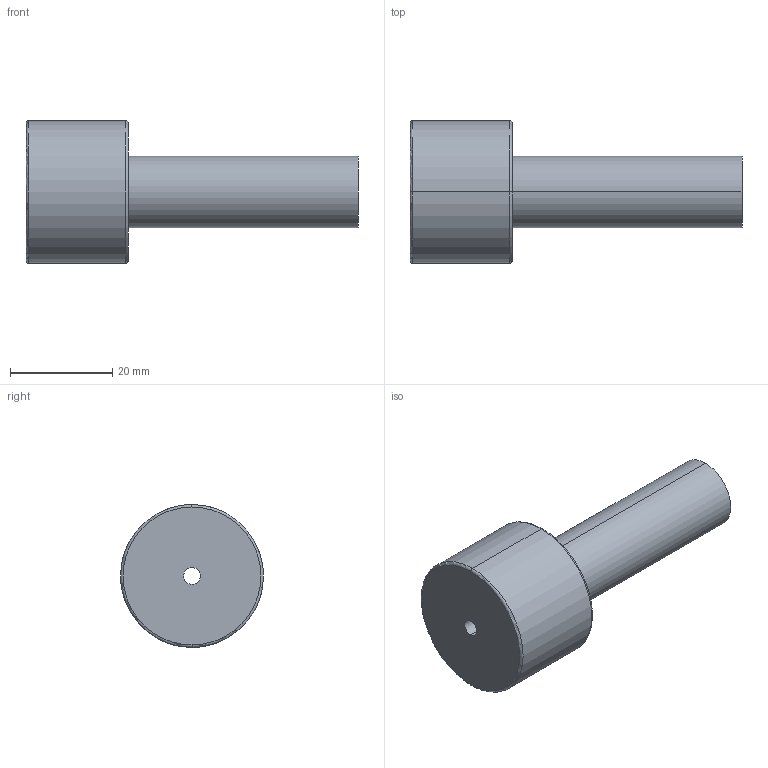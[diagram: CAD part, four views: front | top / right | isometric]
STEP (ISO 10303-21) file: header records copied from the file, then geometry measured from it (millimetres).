
FILE_DESCRIPTION(('CATIA V5 STEP Exchange'),'2;1');
FILE_NAME('C:\Users\Utente\Desktop\IO LAVORO\3D X SITO CF\X SITO\PLASTICA\3D files 367\367-14X65.stp','2021-03-24T15:17:54+00:00',('none'),('none'),'CATIA Version 5 Release 20 GA (IN-10)','CATIA V5 STEP AP203','none');
FILE_SCHEMA(('CONFIG_CONTROL_DESIGN'));
Length unit declared in the file: millimetre
Products named in the file (1): 367-14X65
Bounding box: 65 x 28 x 28 mm (x, y, z)
Volume: 17906.3 mm3; surface area: 5910 mm2
Topology: 1 solids, 1 shells, 13 faces, 42 edges, 32 vertices
Faces by surface type: torus 4, cylinder 4, plane 3, cone 2
Entity records: 608 total; most frequent: CARTESIAN_POINT 194, ORIENTED_EDGE 84, DIRECTION 60, AXIS2_PLACEMENT_3D 42, EDGE_CURVE 42, VERTEX_POINT 32, CIRCLE 28, EDGE_LOOP 16
